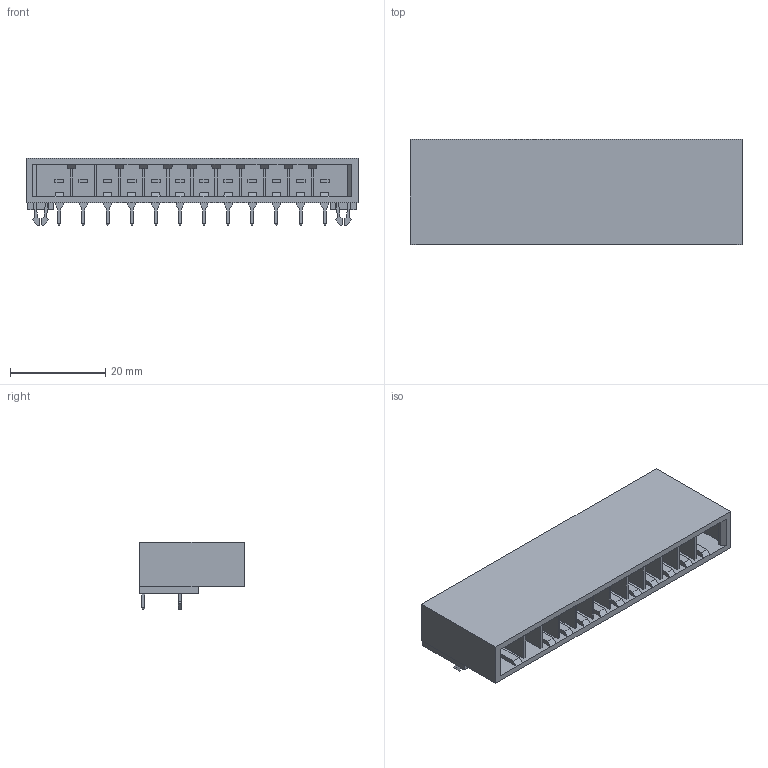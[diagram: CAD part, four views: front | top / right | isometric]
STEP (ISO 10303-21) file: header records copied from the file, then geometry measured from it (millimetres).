
FILE_DESCRIPTION (( 'STEP AP214' ), '1' );
FILE_NAME ('HC-5.08D-12AW-X-05（5.08 单排 弯针-HCTL）.STEP', '2024-09-20T07:51:03', ( '' ), ( '' ), 'SwSTEP 2.0', 'SolidWorks 2022', '' );
FILE_SCHEMA (( 'AUTOMOTIVE_DESIGN' ));
Length unit declared in the file: millimetre
Products named in the file (1): HC-5.08D-12AW-X-05（5.08 单排 弯针-HCTL）
Bounding box: 69.88 x 22.1 x 14.19 mm (x, y, z)
Volume: 8606.6 mm3; surface area: 10432.5 mm2
Topology: 1 solids, 1 shells, 448 faces, 1145 edges, 724 vertices
Faces by surface type: plane 440, cylinder 8
Entity records: 15971 total; most frequent: CARTESIAN_POINT 2318, ORIENTED_EDGE 2290, DIRECTION 2059, EDGE_CURVE 1145, LINE 1129, VECTOR 1129, VERTEX_POINT 724, EDGE_LOOP 473
